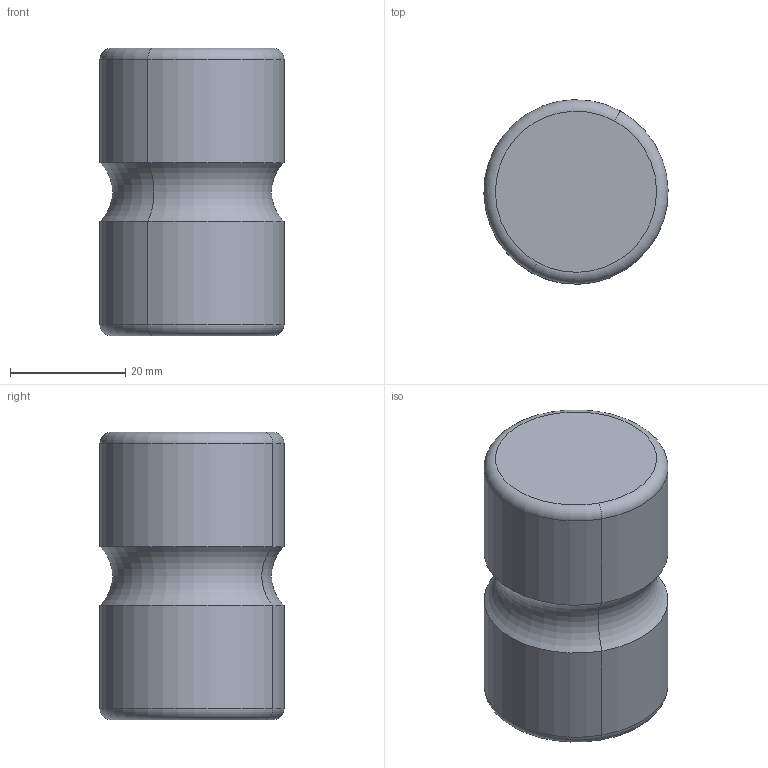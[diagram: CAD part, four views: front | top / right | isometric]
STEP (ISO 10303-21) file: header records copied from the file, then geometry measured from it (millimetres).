
FILE_DESCRIPTION(('CATIA V5 STEP Exchange'),'2;1');
FILE_NAME('C:\Users\d.catalano\Desktop\CATALOGO CAD\04 MOLLE\A519\A519-32.stp','2021-11-26T13:58:40+00:00',('none'),('none'),'CATIA Version 5 Release 19 SP 3 (IN-10)','CATIA V5 STEP AP203','none');
FILE_SCHEMA(('CONFIG_CONTROL_DESIGN'));
Length unit declared in the file: millimetre
Products named in the file (1): A519-32
Bounding box: 31.99 x 31.99 x 50 mm (x, y, z)
Volume: 38574.4 mm3; surface area: 6477.8 mm2
Topology: 1 solids, 1 shells, 12 faces, 22 edges, 12 vertices
Faces by surface type: torus 6, cylinder 4, plane 2
Entity records: 294 total; most frequent: ORIENTED_EDGE 44, CARTESIAN_POINT 41, DIRECTION 34, AXIS2_PLACEMENT_3D 25, EDGE_CURVE 22, CIRCLE 18, ADVANCED_FACE 12, EDGE_LOOP 12
